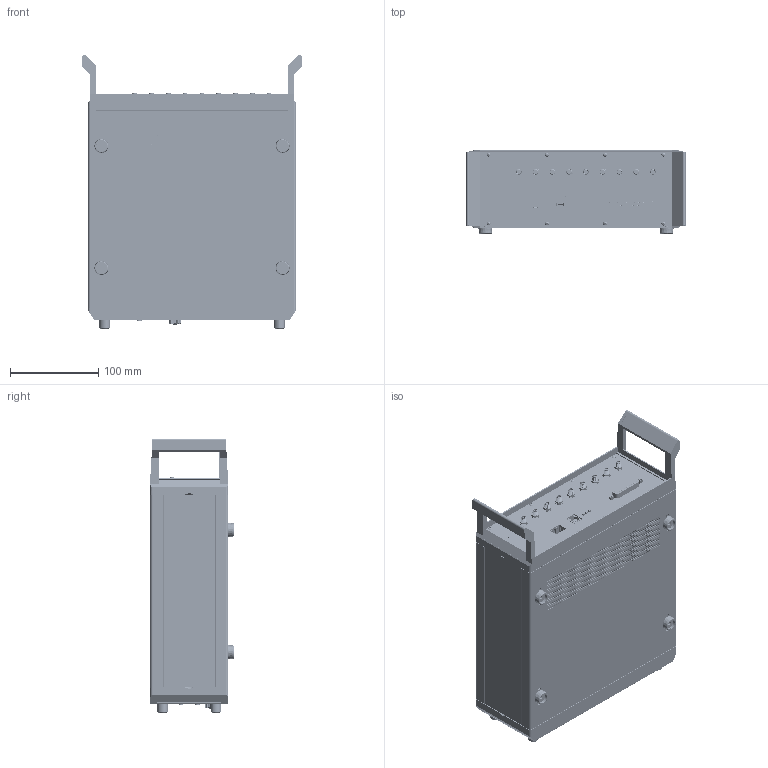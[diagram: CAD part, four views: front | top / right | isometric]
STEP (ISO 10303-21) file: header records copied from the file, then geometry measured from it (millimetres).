
FILE_DESCRIPTION (( 'STEP AP203' ), '1' );
FILE_NAME ('PQ.077.2000.0006.12_MH150_Pico_8P-.STEP', '2026-03-27T10:12:28', ( '' ), ( '' ), 'SwSTEP 2.0', 'SolidWorks 2025', '' );
FILE_SCHEMA (( 'CONFIG_CONTROL_DESIGN' ));
Products named in the file (1): PQ.077.2000.0006.12_MH150_Pico_8P-
Bounding box: 248.74 x 94.62 x 311.45 mm (x, y, z)
Surface area: 457072.9 mm2 (no closed solid volume)
Topology: 0 solids, 319 shells, 3122 faces, 13709 edges, 10730 vertices
Faces by surface type: cylinder 1489, plane 1234, cone 284, bspline 93, sphere 22
Full cylindrical faces by diameter (mm): 1 x17, 1.3 x7, 2 x960, 2.261 x2, 3 x3, 3.2 x1, 3.4 x4, 3.6 x1, 3.8 x10, 4 x4, 4.5 x20, 4.61 x13, 4.8 x13, 5.1 x2, 5.35 x13, 5.451 x39, 7 x59, 7.5 x2, 9.4 x13, 10 x1, 11.8 x4, 12 x9
Entity records: 133136 total; most frequent: CARTESIAN_POINT 29382, DIRECTION 20628, ORIENTED_EDGE 17167, EDGE_CURVE 11323, VERTEX_POINT 9673, AXIS2_PLACEMENT_3D 7399, EDGE_LOOP 6948, LINE 5830
